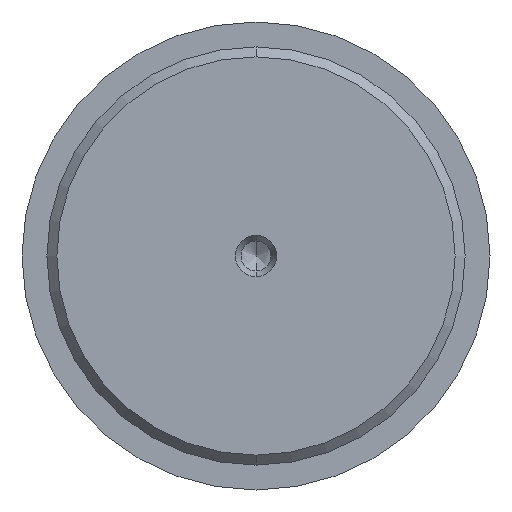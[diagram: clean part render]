
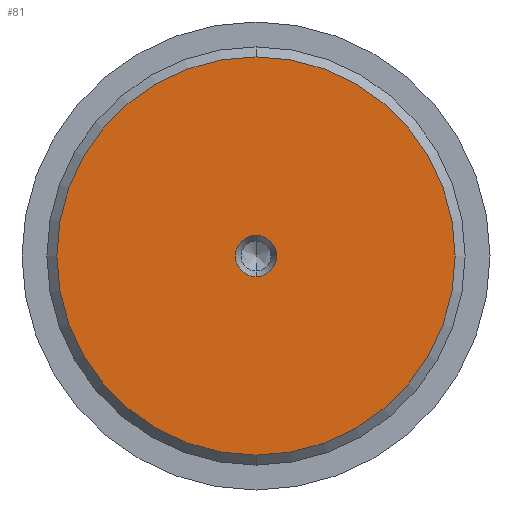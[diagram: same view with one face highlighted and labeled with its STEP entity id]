
A CAD part, left-side view. The second image highlights one B-rep face of the part: STEP entity #81.
In plain terms, the highlighted free-form (B-spline) face has degree [1, 1] with [2, 2] control points.
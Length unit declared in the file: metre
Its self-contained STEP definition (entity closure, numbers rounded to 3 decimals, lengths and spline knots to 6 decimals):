
#81 = ADVANCED_FACE( '', ( #143, #144 ), #145, .F. );
#143 = FACE_BOUND( '', #267, .T. );
#144 = FACE_OUTER_BOUND( '', #268, .T. );
#145 = B_SPLINE_SURFACE_WITH_KNOTS( '', 1, 1, ( ( #269, #270 ), ( #271, #272 ) ), .UNSPECIFIED., .F., .F., .F., ( 2, 2 ), ( 2, 2 ), ( 0., 1. ), ( 0., 1. ), .UNSPECIFIED. );
#267 = EDGE_LOOP( '', ( #729, #730 ) );
#268 = EDGE_LOOP( '', ( #731, #732 ) );
#269 = CARTESIAN_POINT( '', ( 0., -0.02024, 0.02024 ) );
#270 = CARTESIAN_POINT( '', ( 0., 0.02024, 0.02024 ) );
#271 = CARTESIAN_POINT( '', ( 0., -0.02024, -0.02024 ) );
#272 = CARTESIAN_POINT( '', ( 0., 0.02024, -0.02024 ) );
#729 = ORIENTED_EDGE( '', *, *, #1073, .F. );
#730 = ORIENTED_EDGE( '', *, *, #1074, .F. );
#731 = ORIENTED_EDGE( '', *, *, #1072, .T. );
#732 = ORIENTED_EDGE( '', *, *, #1066, .T. );
#1066 = EDGE_CURVE( '', #1179, #1180, #1181, .F. );
#1072 = EDGE_CURVE( '', #1180, #1179, #1189, .F. );
#1073 = EDGE_CURVE( '', #1190, #1191, #1192, .T. );
#1074 = EDGE_CURVE( '', #1191, #1190, #1193, .T. );
#1179 = VERTEX_POINT( '', #1355 );
#1180 = VERTEX_POINT( '', #1356 );
#1181 = CIRCLE( '', #1357, 0.02 );
#1189 = CIRCLE( '', #1367, 0.02 );
#1190 = VERTEX_POINT( '', #1368 );
#1191 = VERTEX_POINT( '', #1369 );
#1192 = CIRCLE( '', #1370, 0.002077 );
#1193 = CIRCLE( '', #1371, 0.002077 );
#1355 = CARTESIAN_POINT( '', ( 0., 0., -0.02 ) );
#1356 = CARTESIAN_POINT( '', ( 0., 0., 0.02 ) );
#1357 = AXIS2_PLACEMENT_3D( '', #1582, #1583, #1584 );
#1367 = AXIS2_PLACEMENT_3D( '', #1596, #1597, #1598 );
#1368 = CARTESIAN_POINT( '', ( 0., 0., -0.002077 ) );
#1369 = CARTESIAN_POINT( '', ( 0., 0., 0.002077 ) );
#1370 = AXIS2_PLACEMENT_3D( '', #1599, #1600, #1601 );
#1371 = AXIS2_PLACEMENT_3D( '', #1602, #1603, #1604 );
#1582 = CARTESIAN_POINT( '', ( 0., 0., 0. ) );
#1583 = DIRECTION( '', ( 1., 0., 0. ) );
#1584 = DIRECTION( '', ( 0., 0., -1. ) );
#1596 = CARTESIAN_POINT( '', ( 0., 0., 0. ) );
#1597 = DIRECTION( '', ( 1., 0., 0. ) );
#1598 = DIRECTION( '', ( 0., 0., -1. ) );
#1599 = CARTESIAN_POINT( '', ( 0., 0., 0. ) );
#1600 = DIRECTION( '', ( -1., 0., 0. ) );
#1601 = DIRECTION( '', ( 0., 0., 1. ) );
#1602 = CARTESIAN_POINT( '', ( 0., 0., 0. ) );
#1603 = DIRECTION( '', ( -1., 0., 0. ) );
#1604 = DIRECTION( '', ( 0., 0., 1. ) );
